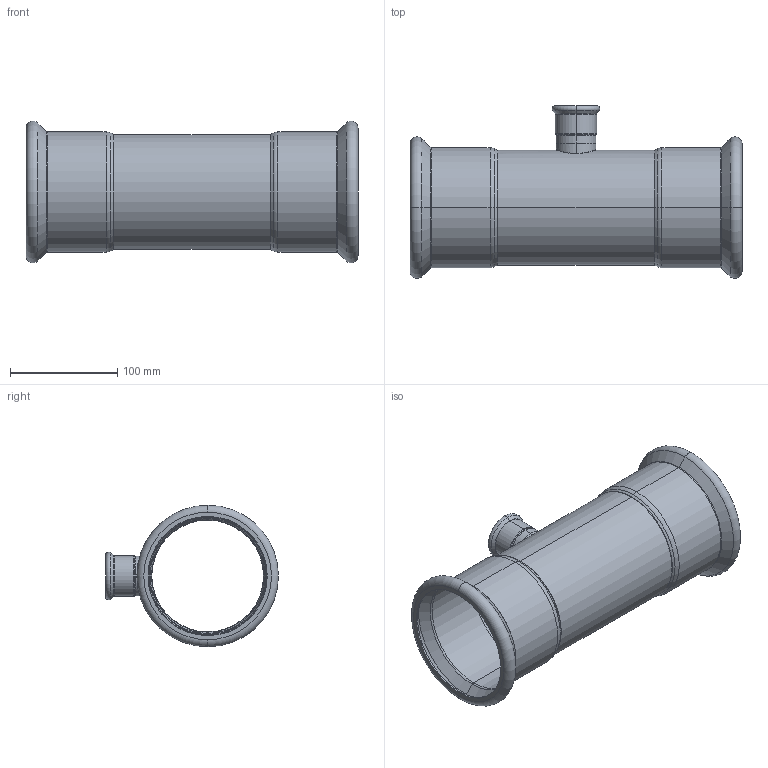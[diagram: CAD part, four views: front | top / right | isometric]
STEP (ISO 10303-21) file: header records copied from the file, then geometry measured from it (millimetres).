
FILE_DESCRIPTION (( 'STEP AP203' ), '1' );
FILE_NAME ('GDA5225.STEP', '2019-01-12T06:13:03', ( '' ), ( '' ), 'SwSTEP 2.0', 'SolidWorks 2015', '' );
FILE_SCHEMA (( 'CONFIG_CONTROL_DESIGN' ));
Length unit declared in the file: millimetre
Products named in the file (3): T-ｉ-01-35; GDA5225; T(R)-Ⅰ-108×35''
Assembly tree (2 placements, depth 2):
  GDA5225
    T(R)-Ⅰ-108×35''
    T-ｉ-01-35
Bounding box: 309 x 160.89 x 131.78 mm (x, y, z)
Volume: 178646 mm3; surface area: 239165.6 mm2
Topology: 2 solids, 2 shells, 114 faces, 234 edges, 128 vertices
Faces by surface type: torus 48, cylinder 30, cone 24, plane 8, bspline 4
Entity records: 4380 total; most frequent: CARTESIAN_POINT 1590, DIRECTION 620, ORIENTED_EDGE 468, AXIS2_PLACEMENT_3D 283, EDGE_CURVE 234, CIRCLE 168, VERTEX_POINT 128, EDGE_LOOP 124
